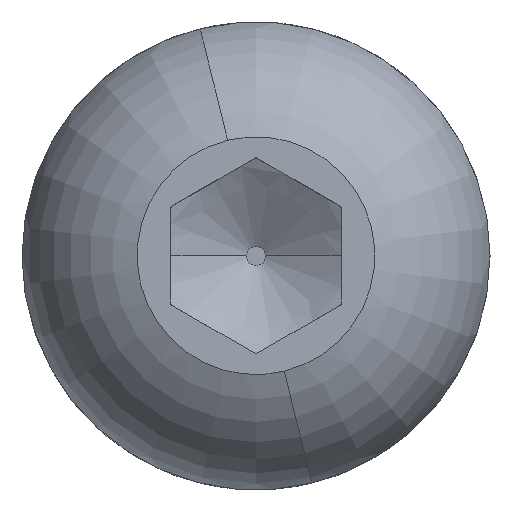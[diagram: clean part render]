
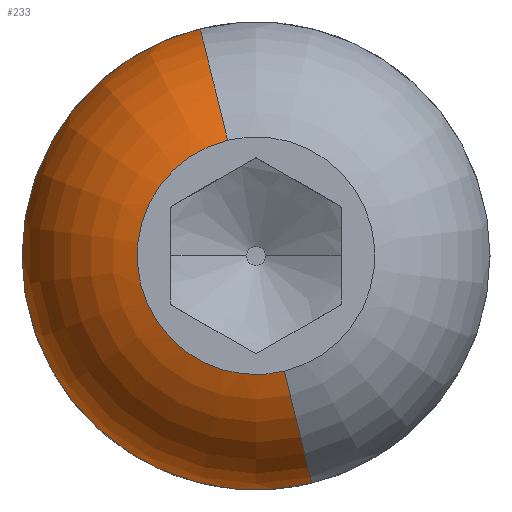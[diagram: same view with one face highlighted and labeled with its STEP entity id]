
A CAD part, top view. The second image highlights one B-rep face of the part: STEP entity #233.
In plain terms, the highlighted toroidal (fillet/blend) face has major radius 0.773 mm and minor radius 2 mm.
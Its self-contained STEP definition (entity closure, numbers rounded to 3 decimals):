
#95 = CIRCLE ( 'NONE', #142, 2.75 ) ;
#102 = FACE_OUTER_BOUND ( 'NONE', #249, .T. ) ;
#121 = CARTESIAN_POINT ( 'NONE',  ( 29.776, 52.958, 34.7 ) ) ;
#122 = DIRECTION ( 'NONE',  ( 1., 0., 0. ) ) ;
#133 = DIRECTION ( 'NONE',  ( 0.239, -0.971, 0. ) ) ;
#134 = DIRECTION ( 'NONE',  ( 0., 0., -1. ) ) ;
#135 = CARTESIAN_POINT ( 'NONE',  ( 30.432, 50.287, 34.4 ) ) ;
#136 = AXIS2_PLACEMENT_3D ( 'NONE', #135, #134, #133 ) ;
#139 = TOROIDAL_SURFACE ( 'NONE', #136, 0.773, 2. ) ;
#140 = DIRECTION ( 'NONE',  ( 0., 0., -1. ) ) ;
#141 = CARTESIAN_POINT ( 'NONE',  ( 30.432, 50.287, 34.7 ) ) ;
#142 = AXIS2_PLACEMENT_3D ( 'NONE', #141, #140, #122 ) ;
#144 = CARTESIAN_POINT ( 'NONE',  ( 27.682, 50.287, 34.7 ) ) ;
#224 = VERTEX_POINT ( 'NONE', #144 ) ;
#226 = EDGE_CURVE ( 'NONE', #224, #227, #95, .T. ) ;
#227 = VERTEX_POINT ( 'NONE', #121 ) ;
#233 = ADVANCED_FACE ( 'NONE', ( #102 ), #139, .T. ) ;
#249 = EDGE_LOOP ( 'NONE', ( #250, #254, #256, #257, #260 ) ) ;
#250 = ORIENTED_EDGE ( 'NONE', *, *, #251, .T. ) ;
#251 = EDGE_CURVE ( 'NONE', #252, #253, #601, .T. ) ;
#252 = VERTEX_POINT ( 'NONE', #596 ) ;
#253 = VERTEX_POINT ( 'NONE', #595 ) ;
#254 = ORIENTED_EDGE ( 'NONE', *, *, #255, .T. ) ;
#255 = EDGE_CURVE ( 'NONE', #253, #227, #594, .T. ) ;
#256 = ORIENTED_EDGE ( 'NONE', *, *, #226, .F. ) ;
#257 = ORIENTED_EDGE ( 'NONE', *, *, #258, .F. ) ;
#258 = EDGE_CURVE ( 'NONE', #259, #224, #589, .T. ) ;
#259 = VERTEX_POINT ( 'NONE', #584 ) ;
#260 = ORIENTED_EDGE ( 'NONE', *, *, #261, .F. ) ;
#261 = EDGE_CURVE ( 'NONE', #252, #259, #582, .T. ) ;
#578 = DIRECTION ( 'NONE',  ( -0.239, 0.971, 0. ) ) ;
#579 = DIRECTION ( 'NONE',  ( 0.971, 0.239, 0. ) ) ;
#580 = CARTESIAN_POINT ( 'NONE',  ( 30.616, 49.537, 34.4 ) ) ;
#581 = AXIS2_PLACEMENT_3D ( 'NONE', #580, #579, #578 ) ;
#582 = CIRCLE ( 'NONE', #581, 2. ) ;
#584 = CARTESIAN_POINT ( 'NONE',  ( 31.088, 47.616, 34.7 ) ) ;
#585 = DIRECTION ( 'NONE',  ( 1., 0., 0. ) ) ;
#586 = DIRECTION ( 'NONE',  ( 0., 0., -1. ) ) ;
#587 = CARTESIAN_POINT ( 'NONE',  ( 30.432, 50.287, 34.7 ) ) ;
#588 = AXIS2_PLACEMENT_3D ( 'NONE', #587, #586, #585 ) ;
#589 = CIRCLE ( 'NONE', #588, 2.75 ) ;
#590 = DIRECTION ( 'NONE',  ( 0.239, -0.971, 0. ) ) ;
#591 = DIRECTION ( 'NONE',  ( -0.971, -0.239, 0. ) ) ;
#592 = CARTESIAN_POINT ( 'NONE',  ( 30.248, 51.037, 34.4 ) ) ;
#593 = AXIS2_PLACEMENT_3D ( 'NONE', #592, #591, #590 ) ;
#594 = CIRCLE ( 'NONE', #593, 2. ) ;
#595 = CARTESIAN_POINT ( 'NONE',  ( 30.099, 51.644, 36.3 ) ) ;
#596 = CARTESIAN_POINT ( 'NONE',  ( 30.765, 48.93, 36.3 ) ) ;
#597 = DIRECTION ( 'NONE',  ( -1., 0., 0. ) ) ;
#598 = DIRECTION ( 'NONE',  ( 0., 0., -1. ) ) ;
#599 = CARTESIAN_POINT ( 'NONE',  ( 30.432, 50.287, 36.3 ) ) ;
#600 = AXIS2_PLACEMENT_3D ( 'NONE', #599, #598, #597 ) ;
#601 = CIRCLE ( 'NONE', #600, 1.397 ) ;
